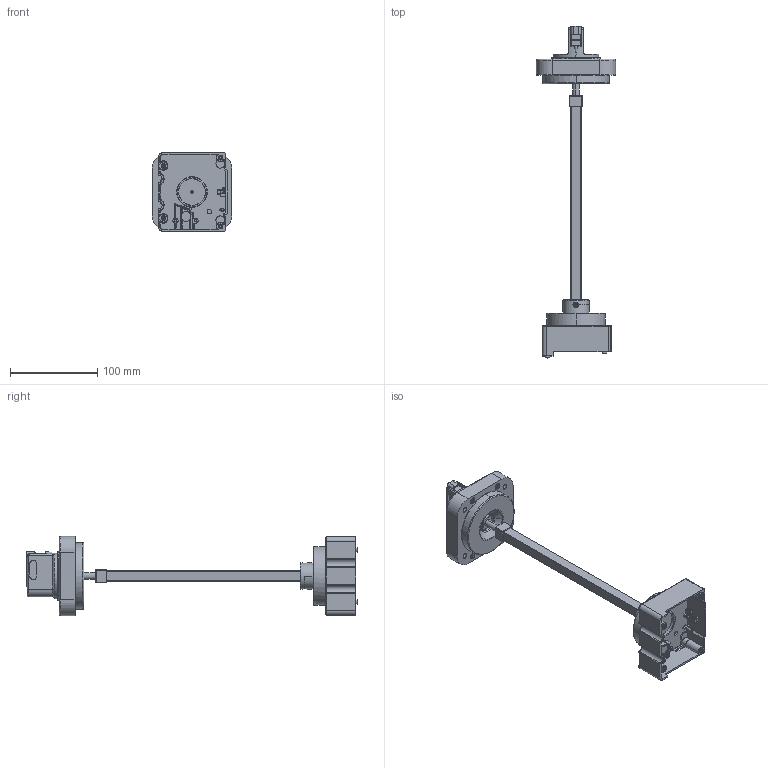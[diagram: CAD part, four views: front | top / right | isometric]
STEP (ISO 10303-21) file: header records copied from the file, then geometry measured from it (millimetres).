
FILE_DESCRIPTION(/* description */ (''),/* implementation_level */ '2;1');
FILE_NAME(/* name */ 'TFH16GP_3D DATA.stp',/* time_stamp */ '2018-06-05T11:53:44+09:00',/* author */ (''),/* organization */ (''),/* preprocessor_version */ 'ST-DEVELOPER v15',/* originating_system */ 'SIEMENS PLM Software NX 9.0',/* authorisation */ '');
FILE_SCHEMA (('AP203_CONFIGURATION_CONTROLLED_3D_DESIGN_OF_MECHANICAL_PARTS_AND_ASSEMBLIES_MIM_LF { 1 0 10303 403 2 1 2}'));
Products named in the file (6): U8_HM_LONG_SHAFT1882; G1_SHAFT_HEAD5281; M4_L50_PH_TAPPING_SCREW6580; g1_hm_cover_assy_asm_stp_stp; G1_SHAFT_ABCNE_ASSY_ASM1892; u1_hm_tfh_base_assy_asm_stp_stp
Assembly tree (5 placements, depth 3):
  u1_hm_tfh_base_assy_asm_stp_stp
    g1_hm_cover_assy_asm_stp_stp
    G1_SHAFT_ABCNE_ASSY_ASM1892
      M4_L50_PH_TAPPING_SCREW6580
      G1_SHAFT_HEAD5281
      U8_HM_LONG_SHAFT1882
Bounding box: 91 x 381.43 x 91 mm (x, y, z)
Volume: 308978.8 mm3; surface area: 134416.7 mm2
Topology: 5 solids, 7 shells, 2951 faces, 7607 edges, 4660 vertices
Faces by surface type: plane 1293, cylinder 893, torus 306, sphere 190, bspline 115, cone 90, extrusion 64
Full cylindrical faces by diameter (mm): 39.033 x1
Entity records: 96238 total; most frequent: CARTESIAN_POINT 24367, DIRECTION 15013, ORIENTED_EDGE 14906, EDGE_CURVE 7453, AXIS2_PLACEMENT_3D 5339, VERTEX_POINT 4660, VECTOR 4335, LINE 4271
